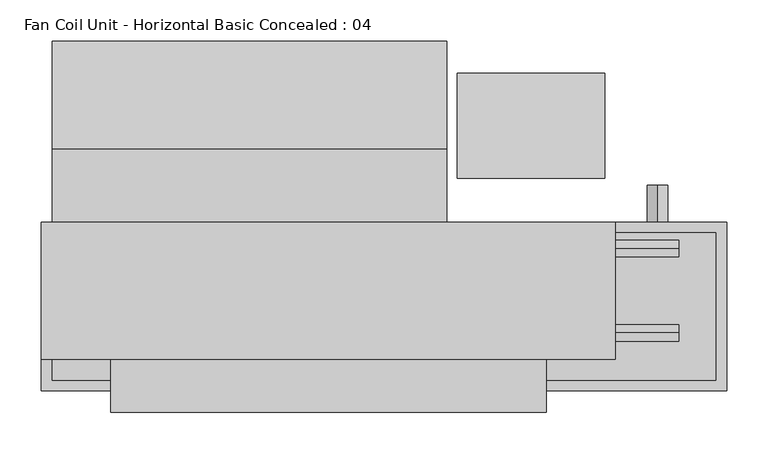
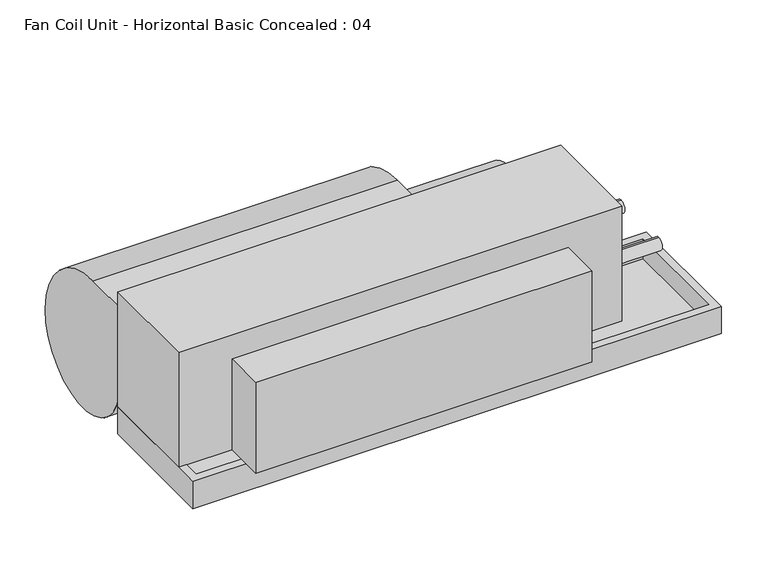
"""IFC4 building model written with IfcOpenShell, lengths in millimetres: proxy geometry, Fan Coil Unit - Horizontal Basic Concealed : 04."""

from ifc_helpers import new_model, si_unit, point, frame, frame_2d, origin, origin_with_axes, place, context, project, spatial, polyline, circle_curve, trimmed, segment, composite_curve, outline, extrude, faceted_brep, source, transform, mapped, element, save


def fan_coil_unit_horizontal_basic_concealed_04_04d40ada(model_context):
    return source(origin(), model_context, "Body", "SolidModel", [
        extrude(outline(composite_curve([segment(trimmed(circle_curve(frame_2d((-32.3, 396.8)), 12.5), [point((-19.8, 396.8))], [point((-44.8, 396.8))], False, "CARTESIAN"), True, "CONTINUOUS"), segment(trimmed(circle_curve(frame_2d((-32.3, 396.8)), 12.5), [point((-44.8, 396.8))], [point((-19.8, 396.8))], False, "CARTESIAN"), True, "CONTINUOUS")], self_intersect=False)), frame((0.0, 82.5, 0.0), z_axis=(0.0, 1.0, 0.0), x_axis=(0.0, 0.0, 1.0)), (0.0, 0.0, 1.0), 44.5),
        extrude(outline(composite_curve([segment(trimmed(circle_curve(frame_2d((50.8, 82.0)), 10.0), [point((50.8, 92.0))], [point((50.8, 72.0))], False, "CARTESIAN"), True, "CONTINUOUS"), segment(trimmed(circle_curve(frame_2d((50.8, 82.0)), 10.0), [point((50.8, 72.0))], [point((50.8, 92.0))], False, "CARTESIAN"), True, "CONTINUOUS")], self_intersect=False)), frame((346.0, 0.0, 0.0), z_axis=(1.0, 0.0, 0.0), x_axis=(0.0, 1.0, 0.0)), (0.0, 0.0, 1.0), 76.2),
        extrude(outline(composite_curve([segment(trimmed(circle_curve(frame_2d((-50.8, 82.0)), 10.0), [point((-50.8, 92.0))], [point((-50.8, 72.0))], False, "CARTESIAN"), True, "CONTINUOUS"), segment(trimmed(circle_curve(frame_2d((-50.8, 82.0)), 10.0), [point((-50.8, 72.0))], [point((-50.8, 92.0))], False, "CARTESIAN"), True, "CONTINUOUS")], self_intersect=False)), frame((346.0, 0.0, 0.0), z_axis=(1.0, 0.0, 0.0), x_axis=(0.0, 1.0, 0.0)), (0.0, 0.0, 1.0), 76.2),
        extrude(outline(composite_curve([segment(trimmed(circle_curve(frame_2d((198.9628555, 25.2826538)), 101.6), [point((300.5628555, 25.2826538))], [point((97.3628555, 25.2826538))], False, "CARTESIAN"), True, "CONTINUOUS"), segment(polyline([(97.3628555, 25.2826538), (82.55, 25.2826538), (82.55, 150.0), (171.45, 150.0)]), True, "CONTINUOUS"), segment(trimmed(circle_curve(frame_2d((171.45, 20.8096873)), 129.1903127), [point((171.45, 150.0))], [point((300.5628555, 25.2826538))], False, "CARTESIAN"), True, "CONTINUOUS")], self_intersect=False)), frame((-333.3, 0.0, 0.0), z_axis=(1.0, 0.0, 0.0), x_axis=(0.0, 1.0, 0.0)), (0.0, 0.0, 1.0), 475.9),
        extrude(outline(composite_curve([segment(trimmed(circle_curve(frame_2d((198.9628555, 25.2826538)), 63.5), [point((135.4628555, 25.2826538))], [point((262.4628555, 25.2826538))], False, "CARTESIAN"), True, "CONTINUOUS"), segment(trimmed(circle_curve(frame_2d((198.9628555, 25.2826538)), 63.5), [point((262.4628555, 25.2826538))], [point((135.4628555, 25.2826538))], False, "CARTESIAN"), True, "CONTINUOUS")], self_intersect=False)), frame((155.3, 0.0, 0.0), z_axis=(1.0, 0.0, 0.0), x_axis=(0.0, 1.0, 0.0)), (0.0, 0.0, 1.0), 178.0),
        extrude(outline(polyline([(262.5, -82.5), (262.5, -146.55), (-262.5, -146.55), (-262.5, -82.5), (262.5, -82.5)])), origin_with_axes(), (0.0, 0.0, 1.0), 150.0),
        faceted_brep([(480.0, 82.5, 0.0), (-346.0, 82.5, 0.0), (-346.0, -120.5, 0.0), (480.0, -120.5, 0.0), (467.3, -107.8, 0.0), (-333.3, -107.8, 0.0), (-333.3, 69.8, 0.0), (467.3, 69.8, 0.0), (480.0, 82.5, -45.0), (480.0, -120.5, -45.0), (-346.0, -120.5, -45.0), (-346.0, 82.5, -45.0), (-333.3, -107.8, -32.3), (467.3, -107.8, -32.3), (467.3, 69.8, -32.3), (-333.3, 69.8, -32.3)], [[[0, 1, 2, 3], [4, 5, 6, 7]], [[8, 9, 10, 11]], [[1, 0, 8, 11]], [[2, 1, 11, 10]], [[3, 2, 10, 9]], [[0, 3, 9, 8]], [[12, 13, 14, 15]], [[13, 12, 5, 4]], [[14, 13, 4, 7]], [[15, 14, 7, 6]], [[12, 15, 6, 5]]]),
        extrude(outline(polyline([(346.0, 82.5), (346.0, -82.5), (-346.0, -82.5), (-346.0, 82.5), (346.0, 82.5)])), origin_with_axes(), (0.0, 0.0, 1.0), 190.0),
    ])


if __name__ == "__main__":
    model = new_model("IFC4")
    model_context = context("Model", 3, world=origin())
    ifc_project = project(units=[si_unit("LENGTHUNIT", "METRE", prefix="MILLI")], contexts=[model_context])
    site = spatial("IfcSite", under=ifc_project)
    building = spatial("IfcBuilding", under=site)
    placement = place(None, origin())
    fan_coil_unit_horizontal_basic_concealed_04_shape = fan_coil_unit_horizontal_basic_concealed_04_04d40ada(model_context)
    element("IfcBuildingElementProxy", 1, Name="Fan Coil Unit - Horizontal Basic Concealed : 04", ObjectType="Fan Coil Unit - Horizontal Basic Concealed : 04", at=placement, inside=building, context=model_context, shape_type="MappedRepresentation", body=[
        mapped(fan_coil_unit_horizontal_basic_concealed_04_shape, transform((0.0, 0.0, 0.0), x_axis=(1.0, 0.0, 0.0), y_axis=(0.0, 1.0, 0.0), z_axis=(0.0, 0.0, 1.0))),
    ])
    save(model, "model.ifc")
